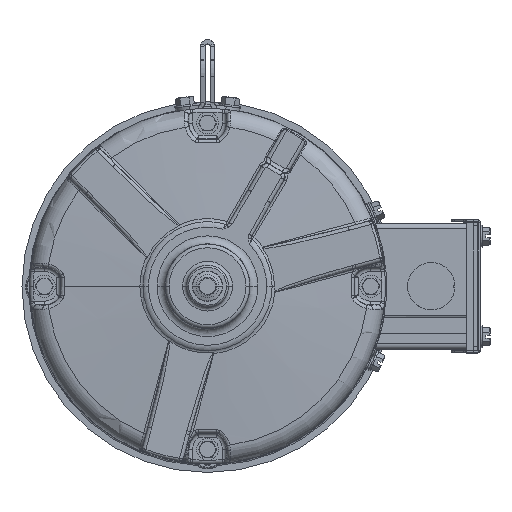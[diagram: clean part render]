
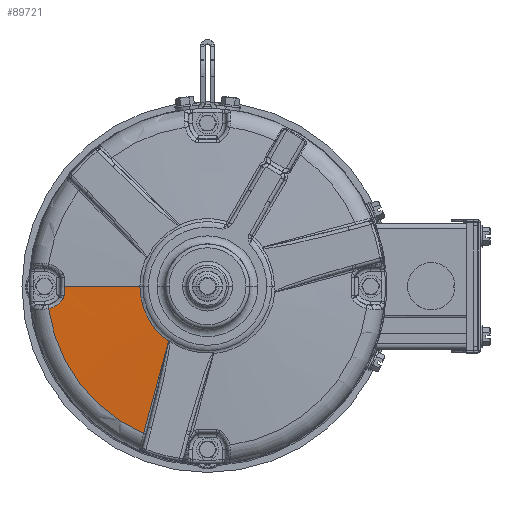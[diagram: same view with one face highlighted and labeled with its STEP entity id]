
A CAD part, top view. The second image highlights one B-rep face of the part: STEP entity #89721.
In plain terms, the highlighted conical face has half-angle 86 degrees and reference radius 40.788 mm.
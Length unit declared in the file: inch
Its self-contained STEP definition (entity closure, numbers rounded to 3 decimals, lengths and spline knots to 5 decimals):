
#2985 = CARTESIAN_POINT ( 'NONE',  ( -3.40605, -0.21592, 4.74241 ) ) ;
#3329 = CARTESIAN_POINT ( 'NONE',  ( -3.43104, -0.29883, 4.74023 ) ) ;
#3506 = ORIENTED_EDGE ( 'NONE', *, *, #45866, .T. ) ;
#3516 = EDGE_CURVE ( 'NONE', #98878, #96873, #49584, .T. ) ;
#3795 = CARTESIAN_POINT ( 'NONE',  ( -3.60901, -0.46807, 4.72659 ) ) ;
#12496 = CONICAL_SURFACE ( 'NONE', #128353, 1.60582, 1.501 ) ;
#12580 = EDGE_CURVE ( 'NONE', #98878, #113578, #43164, .T. ) ;
#13596 = DIRECTION ( 'NONE',  ( -0.998, 0., -0.07 ) ) ;
#13789 = CARTESIAN_POINT ( 'NONE',  ( -3.41669, -0.27335, 4.74138 ) ) ;
#14132 = ORIENTED_EDGE ( 'NONE', *, *, #80012, .T. ) ;
#14161 = CARTESIAN_POINT ( 'NONE',  ( -3.45077, -0.32857, 4.73868 ) ) ;
#14214 = CARTESIAN_POINT ( 'NONE',  ( -1.60582, 0., 4.86877 ) ) ;
#14633 = CARTESIAN_POINT ( 'NONE',  ( -3.70504, -0.51188, 4.71952 ) ) ;
#24782 = CARTESIAN_POINT ( 'NONE',  ( -3.43104, -0.29883, 4.74023 ) ) ;
#24793 = B_SPLINE_CURVE_WITH_KNOTS ( 'NONE', 3,
 ( #3329, #14161, #47160, #124310, #58204, #135310, #69374, #3795, #80572, #14633, #91690, #25614 ),
 .UNSPECIFIED., .F., .F.,
 ( 4, 2, 2, 2, 2, 4 ),
 ( 0., 0.00268, 0.00403, 0.00537, 0.00805, 0.01073 ),
 .UNSPECIFIED. ) ;
#25614 = CARTESIAN_POINT ( 'NONE',  ( -3.77426, -0.52938, 4.71456 ) ) ;
#29112 = DIRECTION ( 'NONE',  ( -1., 0., 0. ) ) ;
#29431 = DIRECTION ( 'NONE',  ( -1., 0., 0. ) ) ;
#29585 = DIRECTION ( 'NONE',  ( 0., 0., -1. ) ) ;
#29604 = CARTESIAN_POINT ( 'NONE',  ( 0., 0., 4.71456 ) ) ;
#32025 = CARTESIAN_POINT ( 'NONE',  ( -3.40604, -0.07197, 4.74289 ) ) ;
#32721 = DIRECTION ( 'NONE',  ( 0., 0., -1. ) ) ;
#35787 = CARTESIAN_POINT ( 'NONE',  ( -3.43104, -0.29883, 4.74023 ) ) ;
#39555 = LINE ( 'NONE', #101662, #124088 ) ;
#43164 = CIRCLE ( 'NONE', #141665, 3.8112 ) ;
#45866 = EDGE_CURVE ( 'NONE', #96873, #100507, #72932, .T. ) ;
#46470 = VERTEX_POINT ( 'NONE', #35787 ) ;
#47160 = CARTESIAN_POINT ( 'NONE',  ( -3.47309, -0.35587, 4.73693 ) ) ;
#49584 = B_SPLINE_CURVE_WITH_KNOTS ( 'NONE', 3,
 ( #63337, #64197, #62558, #62534, #62371, #62084 ),
 .UNSPECIFIED., .F., .F.,
 ( 4, 2, 4 ),
 ( 0., 0.02881, 0.05762 ),
 .UNSPECIFIED. ) ;
#49667 = ORIENTED_EDGE ( 'NONE', *, *, #95633, .T. ) ;
#53697 = AXIS2_PLACEMENT_3D ( 'NONE', #98814, #32721, #109824 ) ;
#54111 = CARTESIAN_POINT ( 'NONE',  ( -3.40604, -0.14395, 4.74273 ) ) ;
#54817 = VERTEX_POINT ( 'NONE', #113034 ) ;
#58204 = CARTESIAN_POINT ( 'NONE',  ( -3.5233, -0.4052, 4.73307 ) ) ;
#62084 = CARTESIAN_POINT ( 'NONE',  ( -0.92748, -1.31089, 4.86877 ) ) ;
#62371 = CARTESIAN_POINT ( 'NONE',  ( -1.02626, -1.67499, 4.844 ) ) ;
#62534 = CARTESIAN_POINT ( 'NONE',  ( -1.1249, -2.03905, 4.81831 ) ) ;
#62558 = CARTESIAN_POINT ( 'NONE',  ( -1.32211, -2.76719, 4.76668 ) ) ;
#63337 = CARTESIAN_POINT ( 'NONE',  ( -1.51923, -3.49531, 4.71456 ) ) ;
#64197 = CARTESIAN_POINT ( 'NONE',  ( -1.42068, -3.13125, 4.74065 ) ) ;
#64672 = B_SPLINE_CURVE_WITH_KNOTS ( 'NONE', 3,
 ( #2985, #68528, #79747, #13789, #90833, #24782 ),
 .UNSPECIFIED., .F., .F.,
 ( 4, 2, 4 ),
 ( 0., 0.00111, 0.00222 ),
 .UNSPECIFIED. ) ;
#67322 = B_SPLINE_CURVE_WITH_KNOTS ( 'NONE', 3,
 ( #97654, #32025, #54111, #131238 ),
 .UNSPECIFIED., .F., .F.,
 ( 4, 4 ),
 ( 0.00548, 0.01097 ),
 .UNSPECIFIED. ) ;
#68528 = CARTESIAN_POINT ( 'NONE',  ( -3.40605, -0.23067, 4.74234 ) ) ;
#69374 = CARTESIAN_POINT ( 'NONE',  ( -3.56496, -0.43847, 4.7299 ) ) ;
#72932 = CIRCLE ( 'NONE', #53697, 1.60582 ) ;
#79747 = CARTESIAN_POINT ( 'NONE',  ( -3.40818, -0.24511, 4.74213 ) ) ;
#80012 = EDGE_CURVE ( 'NONE', #54817, #123556, #67322, .T. ) ;
#80572 = CARTESIAN_POINT ( 'NONE',  ( -3.63996, -0.48471, 4.72429 ) ) ;
#86918 = ORIENTED_EDGE ( 'NONE', *, *, #133474, .T. ) ;
#88544 = CARTESIAN_POINT ( 'NONE',  ( -3.77426, -0.52938, 4.71456 ) ) ;
#89721 = ADVANCED_FACE ( 'NONE', ( #132975 ), #12496, .T. ) ;
#90833 = CARTESIAN_POINT ( 'NONE',  ( -3.4229, -0.28655, 4.74087 ) ) ;
#91690 = CARTESIAN_POINT ( 'NONE',  ( -3.73931, -0.52239, 4.71704 ) ) ;
#93656 = CARTESIAN_POINT ( 'NONE',  ( -1.51923, -3.49531, 4.71456 ) ) ;
#94717 = CARTESIAN_POINT ( 'NONE',  ( 0., 0., 4.86877 ) ) ;
#95633 = EDGE_CURVE ( 'NONE', #46470, #113578, #24793, .T. ) ;
#96873 = VERTEX_POINT ( 'NONE', #98979 ) ;
#97654 = CARTESIAN_POINT ( 'NONE',  ( -3.40604, 0., 4.74289 ) ) ;
#98814 = CARTESIAN_POINT ( 'NONE',  ( 0., 0., 4.86877 ) ) ;
#98878 = VERTEX_POINT ( 'NONE', #93656 ) ;
#98979 = CARTESIAN_POINT ( 'NONE',  ( -0.92748, -1.31089, 4.86877 ) ) ;
#100507 = VERTEX_POINT ( 'NONE', #14214 ) ;
#101662 = CARTESIAN_POINT ( 'NONE',  ( -1.60582, 0., 4.86877 ) ) ;
#102373 = ORIENTED_EDGE ( 'NONE', *, *, #3516, .T. ) ;
#109824 = DIRECTION ( 'NONE',  ( -1., 0., 0. ) ) ;
#113034 = CARTESIAN_POINT ( 'NONE',  ( -3.40604, 0., 4.74289 ) ) ;
#113578 = VERTEX_POINT ( 'NONE', #88544 ) ;
#115854 = DIRECTION ( 'NONE',  ( 0., 0., -1. ) ) ;
#118840 = CARTESIAN_POINT ( 'NONE',  ( -3.40605, -0.21592, 4.74241 ) ) ;
#123556 = VERTEX_POINT ( 'NONE', #118840 ) ;
#124088 = VECTOR ( 'NONE', #13596, 39.37008 ) ;
#124310 = CARTESIAN_POINT ( 'NONE',  ( -3.51028, -0.39331, 4.73407 ) ) ;
#124969 = ORIENTED_EDGE ( 'NONE', *, *, #12580, .F. ) ;
#128353 = AXIS2_PLACEMENT_3D ( 'NONE', #94717, #115854, #29112 ) ;
#131238 = CARTESIAN_POINT ( 'NONE',  ( -3.40605, -0.21592, 4.74241 ) ) ;
#132853 = ORIENTED_EDGE ( 'NONE', *, *, #134294, .T. ) ;
#132975 = FACE_OUTER_BOUND ( 'NONE', #140766, .T. ) ;
#133474 = EDGE_CURVE ( 'NONE', #100507, #54817, #39555, .T. ) ;
#134294 = EDGE_CURVE ( 'NONE', #123556, #46470, #64672, .T. ) ;
#135310 = CARTESIAN_POINT ( 'NONE',  ( -3.55061, -0.42777, 4.73098 ) ) ;
#140766 = EDGE_LOOP ( 'NONE', ( #3506, #86918, #14132, #132853, #49667, #124969, #102373 ) ) ;
#141665 = AXIS2_PLACEMENT_3D ( 'NONE', #29604, #29585, #29431 ) ;
